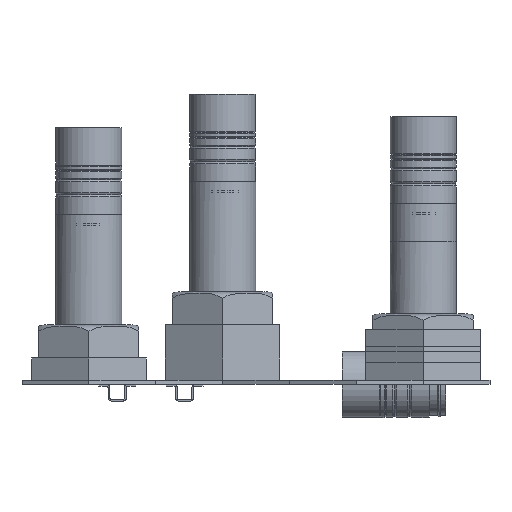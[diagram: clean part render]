
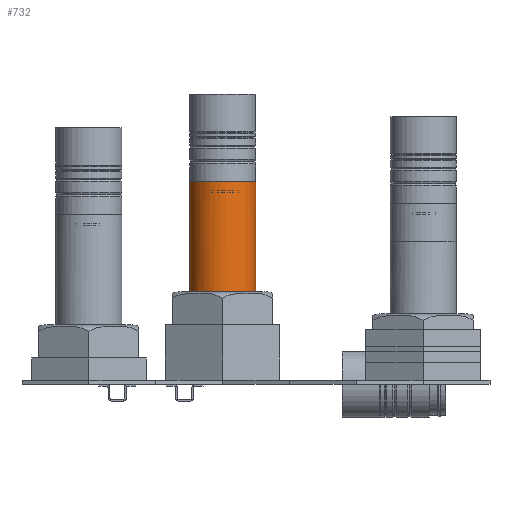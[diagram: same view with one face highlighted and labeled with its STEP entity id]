
A CAD part, left-side view. The second image highlights one B-rep face of the part: STEP entity #732.
In plain terms, the highlighted cylindrical face has radius 30 mm (diameter 60 mm), a full revolution.
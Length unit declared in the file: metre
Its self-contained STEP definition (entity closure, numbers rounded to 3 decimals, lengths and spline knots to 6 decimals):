
#732 = ADVANCED_FACE( '', ( #1006, #1007 ), #1008, .T. );
#1006 = FACE_OUTER_BOUND( '', #1334, .T. );
#1007 = FACE_OUTER_BOUND( '', #1335, .T. );
#1008 = CYLINDRICAL_SURFACE( '', #1336, 0.03 );
#1334 = EDGE_LOOP( '', ( #2249, #2250 ) );
#1335 = EDGE_LOOP( '', ( #2251 ) );
#1336 = AXIS2_PLACEMENT_3D( '', #2252, #2253, #2254 );
#2249 = ORIENTED_EDGE( '', *, *, #2653, .T. );
#2250 = ORIENTED_EDGE( '', *, *, #2656, .F. );
#2251 = ORIENTED_EDGE( '', *, *, #2657, .T. );
#2252 = CARTESIAN_POINT( '', ( 0., 0., 0.13 ) );
#2253 = DIRECTION( '', ( 0., 0., 1. ) );
#2254 = DIRECTION( '', ( -1., 0., 0. ) );
#2653 = EDGE_CURVE( '', #3113, #3114, #3115, .T. );
#2656 = EDGE_CURVE( '', #3113, #3114, #3118, .T. );
#2657 = EDGE_CURVE( '', #3119, #3119, #3120, .T. );
#3113 = VERTEX_POINT( '', #4006 );
#3114 = VERTEX_POINT( '', #4007 );
#3115 = B_SPLINE_CURVE_WITH_KNOTS( '', 3, ( #4008, #4009, #4010, #4011, #4012, #4013, #4014, #4015, #4016, #4017, #4018, #4019, #4020, #4021, #4022, #4023, #4024, #4025, #4026, #4027, #4028, #4029, #4030, #4031, #4032, #4033, #4034, #4035, #4036, #4037, #4038, #4039, #4040, #4041, #4042, #4043, #4044, #4045, #4046, #4047, #4048, #4049, #4050, #4051, #4052, #4053, #4054, #4055, #4056, #4057, #4058, #4059 ), .UNSPECIFIED., .F., .F., ( 4, 2, 2, 2, 2, 2, 2, 2, 2, 2, 2, 2, 2, 2, 2, 2, 2, 2, 2, 2, 2, 2, 2, 2, 2, 4 ), ( 0., 0.001205, 0.001807, 0.00241, 0.003012, 0.003614, 0.004217, 0.004819, 0.006024, 0.007229, 0.007831, 0.008434, 0.009036, 0.009639, 0.010241, 0.010843, 0.012048, 0.013253, 0.013855, 0.014458, 0.01506, 0.015663, 0.016265, 0.016867, 0.018072, 0.019277 ), .UNSPECIFIED. );
#3118 = CIRCLE( '', #4064, 0.03 );
#3119 = VERTEX_POINT( '', #4065 );
#3120 = CIRCLE( '', #4066, 0.03 );
#4006 = CARTESIAN_POINT( '', ( -0.002646, -0.029883, 0. ) );
#4007 = CARTESIAN_POINT( '', ( 0.002646, -0.029883, 0. ) );
#4008 = CARTESIAN_POINT( '', ( -0.002646, -0.029883, 0. ) );
#4009 = CARTESIAN_POINT( '', ( -0.002951, -0.029856, 0.000269 ) );
#4010 = CARTESIAN_POINT( '', ( -0.003208, -0.029829, 0.000576 ) );
#4011 = CARTESIAN_POINT( '', ( -0.003523, -0.029793, 0.001095 ) );
#4012 = CARTESIAN_POINT( '', ( -0.003615, -0.029781, 0.001276 ) );
#4013 = CARTESIAN_POINT( '', ( -0.00377, -0.029762, 0.001647 ) );
#4014 = CARTESIAN_POINT( '', ( -0.003833, -0.029754, 0.001838 ) );
#4015 = CARTESIAN_POINT( '', ( -0.00393, -0.029741, 0.002229 ) );
#4016 = CARTESIAN_POINT( '', ( -0.003964, -0.029737, 0.002431 ) );
#4017 = CARTESIAN_POINT( '', ( -0.004002, -0.029732, 0.002832 ) );
#4018 = CARTESIAN_POINT( '', ( -0.004005, -0.029731, 0.003033 ) );
#4019 = CARTESIAN_POINT( '', ( -0.003981, -0.029735, 0.003435 ) );
#4020 = CARTESIAN_POINT( '', ( -0.003954, -0.029738, 0.003637 ) );
#4021 = CARTESIAN_POINT( '', ( -0.00387, -0.029749, 0.004033 ) );
#4022 = CARTESIAN_POINT( '', ( -0.003813, -0.029757, 0.004226 ) );
#4023 = CARTESIAN_POINT( '', ( -0.0036, -0.029784, 0.004789 ) );
#4024 = CARTESIAN_POINT( '', ( -0.003398, -0.029808, 0.005148 ) );
#4025 = CARTESIAN_POINT( '', ( -0.002905, -0.02986, 0.005779 ) );
#4026 = CARTESIAN_POINT( '', ( -0.002605, -0.029888, 0.006062 ) );
#4027 = CARTESIAN_POINT( '', ( -0.002111, -0.029926, 0.006404 ) );
#4028 = CARTESIAN_POINT( '', ( -0.001938, -0.029938, 0.006505 ) );
#4029 = CARTESIAN_POINT( '', ( -0.001575, -0.029959, 0.006682 ) );
#4030 = CARTESIAN_POINT( '', ( -0.001385, -0.029969, 0.006758 ) );
#4031 = CARTESIAN_POINT( '', ( -0.001001, -0.029984, 0.006878 ) );
#4032 = CARTESIAN_POINT( '', ( -0.000805, -0.02999, 0.006923 ) );
#4033 = CARTESIAN_POINT( '', ( -0.000407, -0.029998, 0.006984 ) );
#4034 = CARTESIAN_POINT( '', ( -0.000203, -0.03, 0.007 ) );
#4035 = CARTESIAN_POINT( '', ( 0.000201, -0.03, 0.007 ) );
#4036 = CARTESIAN_POINT( '', ( 0.000401, -0.029998, 0.006985 ) );
#4037 = CARTESIAN_POINT( '', ( 0.000799, -0.02999, 0.006925 ) );
#4038 = CARTESIAN_POINT( '', ( 0.000997, -0.029984, 0.006879 ) );
#4039 = CARTESIAN_POINT( '', ( 0.001577, -0.029961, 0.006698 ) );
#4040 = CARTESIAN_POINT( '', ( 0.001938, -0.029939, 0.006523 ) );
#4041 = CARTESIAN_POINT( '', ( 0.002607, -0.029888, 0.006061 ) );
#4042 = CARTESIAN_POINT( '', ( 0.002899, -0.029861, 0.005786 ) );
#4043 = CARTESIAN_POINT( '', ( 0.003273, -0.029821, 0.005309 ) );
#4044 = CARTESIAN_POINT( '', ( 0.003386, -0.029808, 0.005139 ) );
#4045 = CARTESIAN_POINT( '', ( 0.003583, -0.029785, 0.004789 ) );
#4046 = CARTESIAN_POINT( '', ( 0.003668, -0.029775, 0.004608 ) );
#4047 = CARTESIAN_POINT( '', ( 0.003811, -0.029757, 0.004231 ) );
#4048 = CARTESIAN_POINT( '', ( 0.003869, -0.029749, 0.004034 ) );
#4049 = CARTESIAN_POINT( '', ( 0.003954, -0.029738, 0.00364 ) );
#4050 = CARTESIAN_POINT( '', ( 0.003981, -0.029735, 0.003441 ) );
#4051 = CARTESIAN_POINT( '', ( 0.004005, -0.029731, 0.00304 ) );
#4052 = CARTESIAN_POINT( '', ( 0.004002, -0.029732, 0.002836 ) );
#4053 = CARTESIAN_POINT( '', ( 0.003965, -0.029737, 0.002432 ) );
#4054 = CARTESIAN_POINT( '', ( 0.003931, -0.029741, 0.002234 ) );
#4055 = CARTESIAN_POINT( '', ( 0.003786, -0.02976, 0.001649 ) );
#4056 = CARTESIAN_POINT( '', ( 0.003628, -0.029781, 0.001269 ) );
#4057 = CARTESIAN_POINT( '', ( 0.003213, -0.029828, 0.000583 ) );
#4058 = CARTESIAN_POINT( '', ( 0.002951, -0.029856, 0.000269 ) );
#4059 = CARTESIAN_POINT( '', ( 0.002646, -0.029883, 0. ) );
#4064 = AXIS2_PLACEMENT_3D( '', #4463, #4464, #4465 );
#4065 = CARTESIAN_POINT( '', ( 0.03, 0., 0.13 ) );
#4066 = AXIS2_PLACEMENT_3D( '', #4466, #4467, #4468 );
#4463 = CARTESIAN_POINT( '', ( 0., 0., 0. ) );
#4464 = DIRECTION( '', ( 0., 0., -1. ) );
#4465 = DIRECTION( '', ( 1., 0., 0. ) );
#4466 = CARTESIAN_POINT( '', ( 0., 0., 0.13 ) );
#4467 = DIRECTION( '', ( 0., 0., -1. ) );
#4468 = DIRECTION( '', ( 1., 0., 0. ) );
